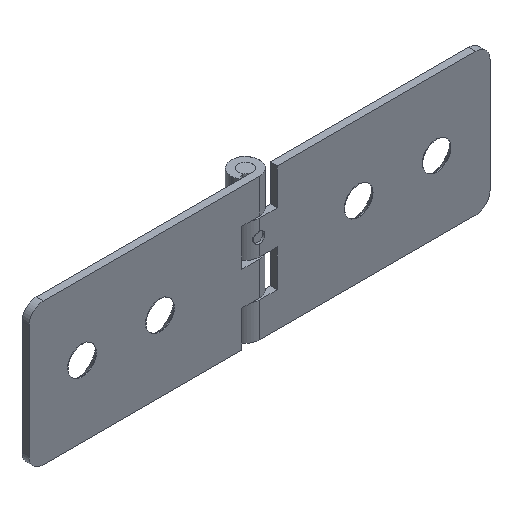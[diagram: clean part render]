
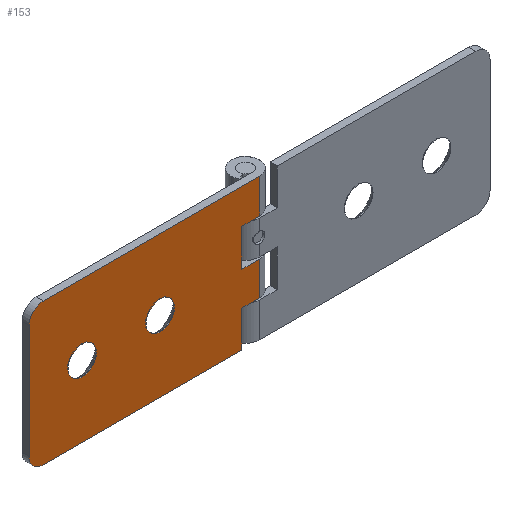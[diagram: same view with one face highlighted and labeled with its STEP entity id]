
A CAD part, isometric view. The second image highlights one B-rep face of the part: STEP entity #153.
In plain terms, the highlighted planar face has unit normal (0, -1, 0).
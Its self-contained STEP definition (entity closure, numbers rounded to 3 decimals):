
#153=ADVANCED_FACE('NONE',(#326,#327,#328),#329,.T.);
#326=FACE_OUTER_BOUND('',#528,.T.);
#327=FACE_BOUND('',#529,.T.);
#328=FACE_BOUND('',#530,.T.);
#329=PLANE('',#531);
#528=EDGE_LOOP('',(#1147,#1148,#1149,#1150,#1151,#1152,#1153,#1154,#1155,#1156,#1157,#1158));
#529=EDGE_LOOP('',(#1159,#1160));
#530=EDGE_LOOP('',(#1161,#1162));
#531=AXIS2_PLACEMENT_3D('',#1163,#1164,#1165);
#1147=ORIENTED_EDGE('',*,*,#1607,.F.);
#1148=ORIENTED_EDGE('',*,*,#1608,.T.);
#1149=ORIENTED_EDGE('',*,*,#1609,.F.);
#1150=ORIENTED_EDGE('',*,*,#1610,.T.);
#1151=ORIENTED_EDGE('',*,*,#1611,.T.);
#1152=ORIENTED_EDGE('',*,*,#1612,.T.);
#1153=ORIENTED_EDGE('',*,*,#1613,.T.);
#1154=ORIENTED_EDGE('',*,*,#1571,.T.);
#1155=ORIENTED_EDGE('',*,*,#1614,.T.);
#1156=ORIENTED_EDGE('',*,*,#1615,.T.);
#1157=ORIENTED_EDGE('',*,*,#1616,.T.);
#1158=ORIENTED_EDGE('',*,*,#1579,.T.);
#1159=ORIENTED_EDGE('',*,*,#1617,.T.);
#1160=ORIENTED_EDGE('',*,*,#1558,.T.);
#1161=ORIENTED_EDGE('',*,*,#1618,.T.);
#1162=ORIENTED_EDGE('',*,*,#1561,.T.);
#1163=CARTESIAN_POINT('',(-32.5,-2.,-10.0));
#1164=DIRECTION('',(0.,-1.0,0.));
#1165=DIRECTION('',(0.,0.,1.0));
#1558=EDGE_CURVE('NONE',#1931,#1932,#1933,.T.);
#1561=EDGE_CURVE('NONE',#1936,#1937,#1938,.T.);
#1571=EDGE_CURVE('NONE',#1949,#1954,#1956,.T.);
#1579=EDGE_CURVE('NONE',#1965,#1970,#1972,.T.);
#1607=EDGE_CURVE('NONE',#2018,#1970,#2019,.T.);
#1608=EDGE_CURVE('NONE',#2018,#2020,#2021,.T.);
#1609=EDGE_CURVE('NONE',#2022,#2020,#2023,.T.);
#1610=EDGE_CURVE('NONE',#2022,#2024,#2025,.T.);
#1611=EDGE_CURVE('NONE',#2024,#2026,#2027,.T.);
#1612=EDGE_CURVE('NONE',#2026,#2028,#2029,.T.);
#1613=EDGE_CURVE('NONE',#2028,#1949,#2030,.T.);
#1614=EDGE_CURVE('NONE',#1954,#2031,#2032,.T.);
#1615=EDGE_CURVE('NONE',#2031,#2033,#2034,.T.);
#1616=EDGE_CURVE('NONE',#2033,#1965,#2035,.T.);
#1617=EDGE_CURVE('NONE',#1932,#1931,#2036,.T.);
#1618=EDGE_CURVE('NONE',#1937,#1936,#2037,.T.);
#1931=VERTEX_POINT('NONE',#2459);
#1932=VERTEX_POINT('NONE',#2460);
#1933=CIRCLE('',#2461,2.0);
#1936=VERTEX_POINT('NONE',#2466);
#1937=VERTEX_POINT('NONE',#2467);
#1938=CIRCLE('',#2468,2.0);
#1949=VERTEX_POINT('NONE',#2483);
#1954=VERTEX_POINT('NONE',#2489);
#1956=LINE('',#2491,#2492);
#1965=VERTEX_POINT('NONE',#2503);
#1970=VERTEX_POINT('NONE',#2509);
#1972=LINE('',#2511,#2512);
#2018=VERTEX_POINT('NONE',#2573);
#2019=LINE('',#2574,#2575);
#2020=VERTEX_POINT('NONE',#2576);
#2021=CIRCLE('',#2577,2.0);
#2022=VERTEX_POINT('NONE',#2578);
#2023=LINE('',#2579,#2580);
#2024=VERTEX_POINT('NONE',#2581);
#2025=CIRCLE('',#2582,2.0);
#2026=VERTEX_POINT('NONE',#2583);
#2027=LINE('',#2584,#2585);
#2028=VERTEX_POINT('NONE',#2586);
#2029=LINE('',#2587,#2588);
#2030=LINE('',#2589,#2590);
#2031=VERTEX_POINT('NONE',#2591);
#2032=LINE('',#2592,#2593);
#2033=VERTEX_POINT('NONE',#2594);
#2034=LINE('',#2595,#2596);
#2035=LINE('',#2597,#2598);
#2036=CIRCLE('',#2599,2.0);
#2037=CIRCLE('',#2600,2.0);
#2459=CARTESIAN_POINT('',(-14.0,-2.,2.0));
#2460=CARTESIAN_POINT('',(-14.0,-2.,-2.0));
#2461=AXIS2_PLACEMENT_3D('',#2986,#2987,#2988);
#2466=CARTESIAN_POINT('',(-25.0,-2.,2.0));
#2467=CARTESIAN_POINT('',(-25.0,-2.,-2.0));
#2468=AXIS2_PLACEMENT_3D('',#2991,#2992,#2993);
#2483=CARTESIAN_POINT('',(0.,-2.0,-4.875));
#2489=CARTESIAN_POINT('',(0.,-2.0,-0.125));
#2491=CARTESIAN_POINT('',(0.,-2.0,-10.0));
#2492=VECTOR('',#3011,1000.0);
#2503=CARTESIAN_POINT('',(0.,-2.0,5.125));
#2509=CARTESIAN_POINT('',(0.,-2.0,10.));
#2511=CARTESIAN_POINT('',(0.,-2.0,-10.0));
#2512=VECTOR('',#3027,1000.0);
#2573=CARTESIAN_POINT('',(-30.5,-2.,10.0));
#2574=CARTESIAN_POINT('',(-32.5,-2.,10.0));
#2575=VECTOR('',#3079,1000.0);
#2576=CARTESIAN_POINT('',(-32.5,-2.,8.0));
#2577=AXIS2_PLACEMENT_3D('',#3080,#3081,#3082);
#2578=CARTESIAN_POINT('',(-32.5,-2.,-8.0));
#2579=CARTESIAN_POINT('',(-32.5,-2.,-10.0));
#2580=VECTOR('',#3083,1000.0);
#2581=CARTESIAN_POINT('',(-30.5,-2.,-10.0));
#2582=AXIS2_PLACEMENT_3D('',#3084,#3085,#3086);
#2583=CARTESIAN_POINT('',(-2.5,-2.0,-10.0));
#2584=CARTESIAN_POINT('',(-32.5,-2.,-10.0));
#2585=VECTOR('',#3087,1000.0);
#2586=CARTESIAN_POINT('',(-2.5,-2.0,-4.875));
#2587=CARTESIAN_POINT('',(-2.5,-2.0,-4.875));
#2588=VECTOR('',#3088,1000.0);
#2589=CARTESIAN_POINT('',(2.5,-2.0,-4.875));
#2590=VECTOR('',#3089,1000.0);
#2591=CARTESIAN_POINT('',(-2.5,-2.0,-0.125));
#2592=CARTESIAN_POINT('',(2.5,-2.0,-0.125));
#2593=VECTOR('',#3090,1000.0);
#2594=CARTESIAN_POINT('',(-2.5,-2.0,5.125));
#2595=CARTESIAN_POINT('',(-2.5,-2.0,5.125));
#2596=VECTOR('',#3091,1000.0);
#2597=CARTESIAN_POINT('',(2.5,-2.0,5.125));
#2598=VECTOR('',#3092,1000.0);
#2599=AXIS2_PLACEMENT_3D('',#3093,#3094,#3095);
#2600=AXIS2_PLACEMENT_3D('',#3096,#3097,#3098);
#2986=CARTESIAN_POINT('',(-14.0,-2.,0.));
#2987=DIRECTION('',(0.,1.0,0.));
#2988=DIRECTION('',(0.,0.,-1.0));
#2991=CARTESIAN_POINT('',(-25.0,-2.,0.));
#2992=DIRECTION('',(0.,1.0,0.));
#2993=DIRECTION('',(0.,0.,-1.0));
#3011=DIRECTION('',(0.,0.,1.0));
#3027=DIRECTION('',(0.,0.,1.0));
#3079=DIRECTION('',(1.0,0.,0.));
#3080=CARTESIAN_POINT('',(-30.5,-2.,8.0));
#3081=DIRECTION('',(0.,-1.0,0.));
#3082=DIRECTION('',(-1.0,0.,0.));
#3083=DIRECTION('',(0.,0.,1.0));
#3084=CARTESIAN_POINT('',(-30.5,-2.,-8.0));
#3085=DIRECTION('',(0.,-1.0,0.));
#3086=DIRECTION('',(-1.0,0.,0.));
#3087=DIRECTION('',(1.0,0.,0.));
#3088=DIRECTION('',(0.,0.,1.0));
#3089=DIRECTION('',(1.0,0.,0.));
#3090=DIRECTION('',(-1.0,0.,0.));
#3091=DIRECTION('',(0.,0.,1.0));
#3092=DIRECTION('',(1.0,0.,0.));
#3093=CARTESIAN_POINT('',(-14.0,-2.,0.));
#3094=DIRECTION('',(0.,1.0,0.));
#3095=DIRECTION('',(0.,0.,-1.0));
#3096=CARTESIAN_POINT('',(-25.0,-2.,0.));
#3097=DIRECTION('',(0.,1.0,0.));
#3098=DIRECTION('',(0.,0.,-1.0));
